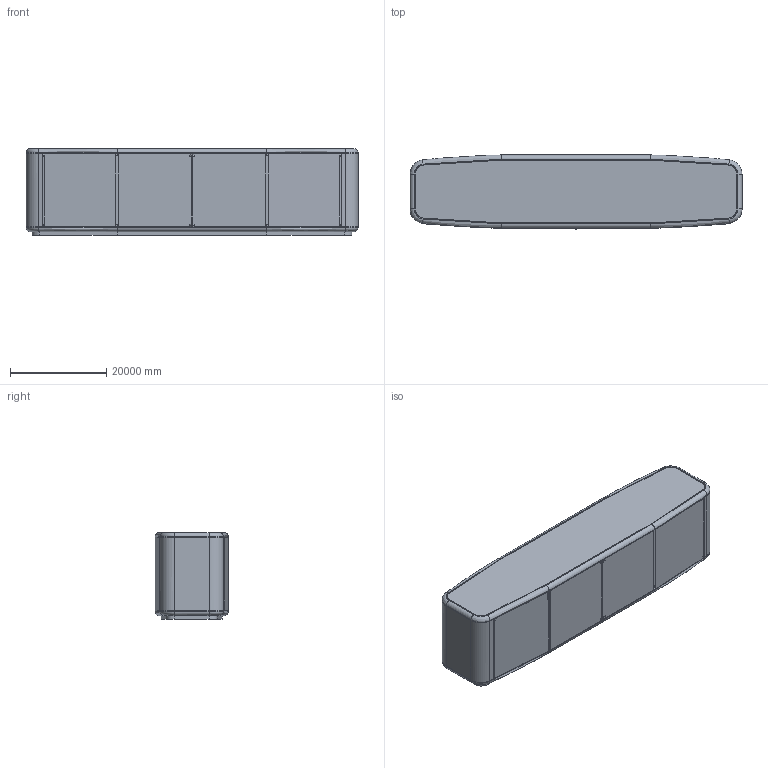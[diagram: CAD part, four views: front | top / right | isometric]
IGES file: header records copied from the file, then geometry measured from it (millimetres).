
Bounding box: 69088 x 15392.4 x 18034 mm (x, y, z)
Surface area: 19621948376.9 mm2 (no closed solid volume)
Topology: 0 solids, 0 shells, 553 faces, 3001 edges, 3001 vertices
Faces by surface type: bspline 553
